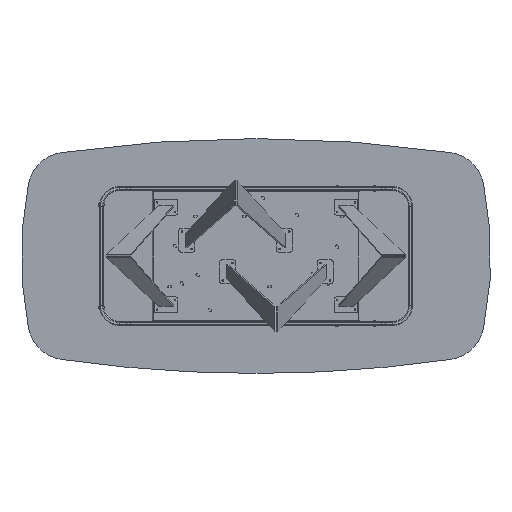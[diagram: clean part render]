
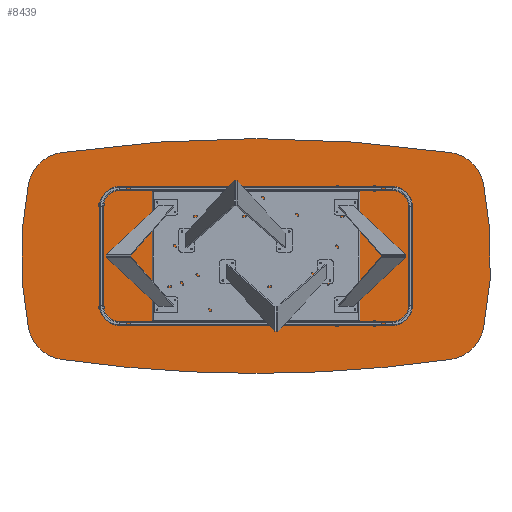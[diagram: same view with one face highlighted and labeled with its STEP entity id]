
A CAD part, front view. The second image highlights one B-rep face of the part: STEP entity #8439.
In plain terms, the highlighted planar face has unit normal (0, -1, 0).
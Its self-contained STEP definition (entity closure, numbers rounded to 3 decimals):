
#257 = DIRECTION ( 'NONE',  ( 0., 1., 0. ) ) ;
#320 = CIRCLE ( 'NONE', #11137, 6950. ) ;
#879 = EDGE_CURVE ( 'NONE', #14746, #7519, #13080, .T. ) ;
#894 = EDGE_CURVE ( 'NONE', #13707, #18501, #15371, .T. ) ;
#1252 = CIRCLE ( 'NONE', #12727, 200. ) ;
#1695 = ORIENTED_EDGE ( 'NONE', *, *, #879, .F. ) ;
#1763 = CARTESIAN_POINT ( 'NONE',  ( 995.103, 0., 528.391 ) ) ;
#1815 = DIRECTION ( 'NONE',  ( 0., 0., 1. ) ) ;
#1909 = EDGE_CURVE ( 'NONE', #13707, #7366, #13587, .T. ) ;
#2325 = ORIENTED_EDGE ( 'NONE', *, *, #894, .T. ) ;
#2996 = EDGE_CURVE ( 'NONE', #14746, #10907, #16904, .T. ) ;
#3050 = FACE_OUTER_BOUND ( 'NONE', #3372, .T. ) ;
#3241 = DIRECTION ( 'NONE',  ( 0., -1., 0. ) ) ;
#3372 = EDGE_LOOP ( 'NONE', ( #1695, #5275, #5592, #6919, #10825, #11834, #2325, #7081, #4665 ) ) ;
#3629 = AXIS2_PLACEMENT_3D ( 'NONE', #4629, #16871, #15623 ) ;
#4295 = DIRECTION ( 'NONE',  ( 0., -1., 0. ) ) ;
#4629 = CARTESIAN_POINT ( 'NONE',  ( 645., 0., 0. ) ) ;
#4665 = ORIENTED_EDGE ( 'NONE', *, *, #15648, .T. ) ;
#4786 = CARTESIAN_POINT ( 'NONE',  ( -322.5, 0., 3175. ) ) ;
#5275 = ORIENTED_EDGE ( 'NONE', *, *, #2996, .T. ) ;
#5341 = CIRCLE ( 'NONE', #13211, 1845. ) ;
#5592 = ORIENTED_EDGE ( 'NONE', *, *, #11706, .F. ) ;
#5657 = DIRECTION ( 'NONE',  ( 0., -1., 0. ) ) ;
#5778 = CIRCLE ( 'NONE', #9064, 200. ) ;
#6012 = DIRECTION ( 'NONE',  ( 0., 1., 0. ) ) ;
#6581 = CIRCLE ( 'NONE', #3629, 1845. ) ;
#6919 = ORIENTED_EDGE ( 'NONE', *, *, #17621, .T. ) ;
#7081 = ORIENTED_EDGE ( 'NONE', *, *, #13840, .F. ) ;
#7366 = VERTEX_POINT ( 'NONE', #20141 ) ;
#7519 = VERTEX_POINT ( 'NONE', #1763 ) ;
#7690 = CARTESIAN_POINT ( 'NONE',  ( 995.103, 0., -528.391 ) ) ;
#7931 = DIRECTION ( 'NONE',  ( 0., -1., 0. ) ) ;
#8102 = DIRECTION ( 'NONE',  ( 0., 0., 1. ) ) ;
#8439 = ADVANCED_FACE ( 'NONE', ( #3050 ), #18950, .F. ) ;
#8495 = AXIS2_PLACEMENT_3D ( 'NONE', #13993, #7931, #14195 ) ;
#9064 = AXIS2_PLACEMENT_3D ( 'NONE', #17305, #3241, #9495 ) ;
#9108 = DIRECTION ( 'NONE',  ( 0., 0., 1. ) ) ;
#9143 = CARTESIAN_POINT ( 'NONE',  ( -995.103, 0., -528.391 ) ) ;
#9355 = AXIS2_PLACEMENT_3D ( 'NONE', #10437, #4295, #9108 ) ;
#9389 = EDGE_CURVE ( 'NONE', #7366, #11750, #320, .T. ) ;
#9463 = CARTESIAN_POINT ( 'NONE',  ( 0., 0., -6350. ) ) ;
#9495 = DIRECTION ( 'NONE',  ( 0., 0., 1. ) ) ;
#9739 = CARTESIAN_POINT ( 'NONE',  ( -645., 0., 0. ) ) ;
#10437 = CARTESIAN_POINT ( 'NONE',  ( -966.467, 0., 330.452 ) ) ;
#10825 = ORIENTED_EDGE ( 'NONE', *, *, #9389, .F. ) ;
#10907 = VERTEX_POINT ( 'NONE', #12504 ) ;
#11070 = CARTESIAN_POINT ( 'NONE',  ( 1162.39, 0., 370.629 ) ) ;
#11137 = AXIS2_PLACEMENT_3D ( 'NONE', #15197, #19705, #11890 ) ;
#11706 = EDGE_CURVE ( 'NONE', #18710, #10907, #6581, .T. ) ;
#11750 = VERTEX_POINT ( 'NONE', #9143 ) ;
#11834 = ORIENTED_EDGE ( 'NONE', *, *, #1909, .F. ) ;
#11890 = DIRECTION ( 'NONE',  ( 0., 0., 1. ) ) ;
#12504 = CARTESIAN_POINT ( 'NONE',  ( -1162.39, 0., 370.629 ) ) ;
#12727 = AXIS2_PLACEMENT_3D ( 'NONE', #13368, #5657, #14703 ) ;
#12800 = DIRECTION ( 'NONE',  ( 0., 0., 1. ) ) ;
#13080 = CIRCLE ( 'NONE', #17352, 6950. ) ;
#13211 = AXIS2_PLACEMENT_3D ( 'NONE', #9739, #14367, #8102 ) ;
#13368 = CARTESIAN_POINT ( 'NONE',  ( -966.467, 0., -330.452 ) ) ;
#13587 = CIRCLE ( 'NONE', #16542, 6950. ) ;
#13707 = VERTEX_POINT ( 'NONE', #7690 ) ;
#13808 = CARTESIAN_POINT ( 'NONE',  ( -1162.39, 0., -370.629 ) ) ;
#13840 = EDGE_CURVE ( 'NONE', #13864, #18501, #5341, .T. ) ;
#13864 = VERTEX_POINT ( 'NONE', #11070 ) ;
#13993 = CARTESIAN_POINT ( 'NONE',  ( 966.467, 0., -330.452 ) ) ;
#14195 = DIRECTION ( 'NONE',  ( 0., 0., 1. ) ) ;
#14343 = CARTESIAN_POINT ( 'NONE',  ( 0., 0., 6350. ) ) ;
#14367 = DIRECTION ( 'NONE',  ( 0., 1., 0. ) ) ;
#14703 = DIRECTION ( 'NONE',  ( 0., 0., 1. ) ) ;
#14746 = VERTEX_POINT ( 'NONE', #14777 ) ;
#14777 = CARTESIAN_POINT ( 'NONE',  ( -995.103, 0., 528.391 ) ) ;
#15197 = CARTESIAN_POINT ( 'NONE',  ( 0., 0., 6350. ) ) ;
#15371 = CIRCLE ( 'NONE', #8495, 200. ) ;
#15623 = DIRECTION ( 'NONE',  ( 0., 0., 1. ) ) ;
#15648 = EDGE_CURVE ( 'NONE', #13864, #7519, #5778, .T. ) ;
#15738 = DIRECTION ( 'NONE',  ( 0., 0., 1. ) ) ;
#16542 = AXIS2_PLACEMENT_3D ( 'NONE', #14343, #257, #12800 ) ;
#16871 = DIRECTION ( 'NONE',  ( 0., 1., 0. ) ) ;
#16904 = CIRCLE ( 'NONE', #9355, 200. ) ;
#17305 = CARTESIAN_POINT ( 'NONE',  ( 966.467, 0., 330.452 ) ) ;
#17352 = AXIS2_PLACEMENT_3D ( 'NONE', #9463, #17377, #15738 ) ;
#17377 = DIRECTION ( 'NONE',  ( 0., 1., 0. ) ) ;
#17621 = EDGE_CURVE ( 'NONE', #18710, #11750, #1252, .T. ) ;
#18501 = VERTEX_POINT ( 'NONE', #20212 ) ;
#18710 = VERTEX_POINT ( 'NONE', #13808 ) ;
#18950 = PLANE ( 'NONE',  #19297 ) ;
#19297 = AXIS2_PLACEMENT_3D ( 'NONE', #4786, #6012, #1815 ) ;
#19705 = DIRECTION ( 'NONE',  ( 0., 1., 0. ) ) ;
#20141 = CARTESIAN_POINT ( 'NONE',  ( 0., 0., -600. ) ) ;
#20212 = CARTESIAN_POINT ( 'NONE',  ( 1162.39, 0., -370.629 ) ) ;
